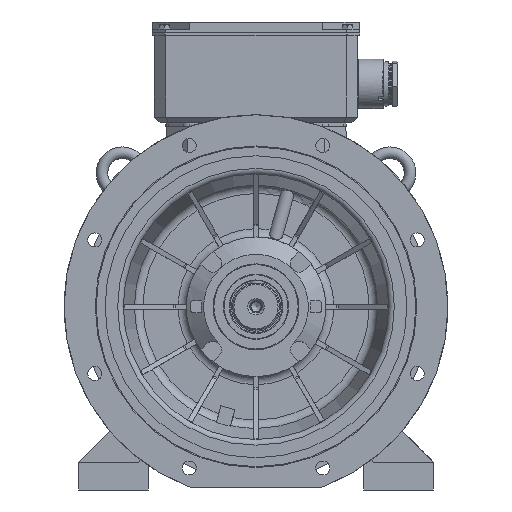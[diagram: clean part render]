
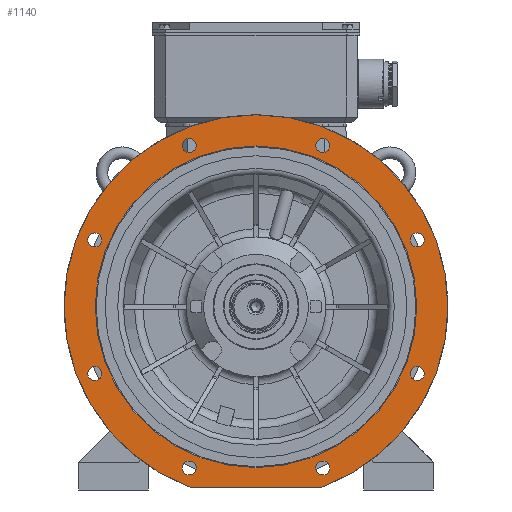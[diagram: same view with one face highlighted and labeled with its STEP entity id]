
A CAD part, front view. The second image highlights one B-rep face of the part: STEP entity #1140.
In plain terms, the highlighted planar face has unit normal (0, -1, 0).
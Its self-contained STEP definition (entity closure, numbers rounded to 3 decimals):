
#1140 = ADVANCED_FACE( '', ( #3533, #3534, #3535, #3536, #3537, #3538, #3539, #3540, #3541, #3542 ), #3543, .F. );
#3533 = FACE_BOUND( '', #10272, .T. );
#3534 = FACE_BOUND( '', #10273, .T. );
#3535 = FACE_BOUND( '', #10274, .T. );
#3536 = FACE_BOUND( '', #10275, .T. );
#3537 = FACE_BOUND( '', #10276, .T. );
#3538 = FACE_BOUND( '', #10277, .T. );
#3539 = FACE_BOUND( '', #10278, .T. );
#3540 = FACE_BOUND( '', #10279, .T. );
#3541 = FACE_BOUND( '', #10280, .T. );
#3542 = FACE_OUTER_BOUND( '', #10281, .T. );
#3543 = PLANE( '', #10282 );
#10272 = EDGE_LOOP( '', ( #19076 ) );
#10273 = EDGE_LOOP( '', ( #19077 ) );
#10274 = EDGE_LOOP( '', ( #19078 ) );
#10275 = EDGE_LOOP( '', ( #19079 ) );
#10276 = EDGE_LOOP( '', ( #19080 ) );
#10277 = EDGE_LOOP( '', ( #19081 ) );
#10278 = EDGE_LOOP( '', ( #19082 ) );
#10279 = EDGE_LOOP( '', ( #19083 ) );
#10280 = EDGE_LOOP( '', ( #19084 ) );
#10281 = EDGE_LOOP( '', ( #19085, #19086, #19087, #19088 ) );
#10282 = AXIS2_PLACEMENT_3D( '', #19089, #19090, #19091 );
#19076 = ORIENTED_EDGE( '', *, *, #23639, .F. );
#19077 = ORIENTED_EDGE( '', *, *, #23640, .F. );
#19078 = ORIENTED_EDGE( '', *, *, #23641, .F. );
#19079 = ORIENTED_EDGE( '', *, *, #23642, .F. );
#19080 = ORIENTED_EDGE( '', *, *, #23643, .F. );
#19081 = ORIENTED_EDGE( '', *, *, #23644, .F. );
#19082 = ORIENTED_EDGE( '', *, *, #23645, .F. );
#19083 = ORIENTED_EDGE( '', *, *, #23646, .F. );
#19084 = ORIENTED_EDGE( '', *, *, #23638, .F. );
#19085 = ORIENTED_EDGE( '', *, *, #21611, .T. );
#19086 = ORIENTED_EDGE( '', *, *, #23647, .F. );
#19087 = ORIENTED_EDGE( '', *, *, #21608, .T. );
#19088 = ORIENTED_EDGE( '', *, *, #21614, .F. );
#19089 = CARTESIAN_POINT( '', ( 0., -103.997, 276.4 ) );
#19090 = DIRECTION( '', ( 0., 1., 0. ) );
#19091 = DIRECTION( '', ( 0., 0., 1. ) );
#21608 = EDGE_CURVE( '', #25660, #25661, #25662, .F. );
#21611 = EDGE_CURVE( '', #25665, #25666, #25667, .F. );
#21614 = EDGE_CURVE( '', #25665, #25661, #25670, .T. );
#23638 = EDGE_CURVE( '', #29046, #29046, #29047, .T. );
#23639 = EDGE_CURVE( '', #29048, #29048, #29049, .T. );
#23640 = EDGE_CURVE( '', #29050, #29050, #29051, .T. );
#23641 = EDGE_CURVE( '', #29052, #29052, #29053, .T. );
#23642 = EDGE_CURVE( '', #29054, #29054, #29055, .T. );
#23643 = EDGE_CURVE( '', #29056, #29056, #29057, .T. );
#23644 = EDGE_CURVE( '', #29058, #29058, #29059, .T. );
#23645 = EDGE_CURVE( '', #29060, #29060, #29061, .T. );
#23646 = EDGE_CURVE( '', #29062, #29062, #29063, .T. );
#23647 = EDGE_CURVE( '', #25660, #25666, #29064, .T. );
#25660 = VERTEX_POINT( '', #33444 );
#25661 = VERTEX_POINT( '', #33445 );
#25662 = CIRCLE( '', #33446, 3. );
#25665 = VERTEX_POINT( '', #33451 );
#25666 = VERTEX_POINT( '', #33452 );
#25667 = CIRCLE( '', #33453, 3. );
#25670 = CIRCLE( '', #33458, 330. );
#29046 = VERTEX_POINT( '', #41403 );
#29047 = CIRCLE( '', #41404, 276.4 );
#29048 = VERTEX_POINT( '', #41405 );
#29049 = CIRCLE( '', #41406, 12. );
#29050 = VERTEX_POINT( '', #41407 );
#29051 = CIRCLE( '', #41408, 12. );
#29052 = VERTEX_POINT( '', #41409 );
#29053 = CIRCLE( '', #41410, 12. );
#29054 = VERTEX_POINT( '', #41411 );
#29055 = CIRCLE( '', #41412, 12. );
#29056 = VERTEX_POINT( '', #41413 );
#29057 = CIRCLE( '', #41414, 12. );
#29058 = VERTEX_POINT( '', #41415 );
#29059 = CIRCLE( '', #41416, 12. );
#29060 = VERTEX_POINT( '', #41417 );
#29061 = CIRCLE( '', #41418, 12. );
#29062 = VERTEX_POINT( '', #41419 );
#29063 = CIRCLE( '', #41420, 12. );
#29064 = LINE( '', #41421, #41422 );
#33444 = CARTESIAN_POINT( '', ( 112.606, -103.997, -310. ) );
#33445 = CARTESIAN_POINT( '', ( 113.639, -103.997, -309.817 ) );
#33446 = AXIS2_PLACEMENT_3D( '', #45125, #45126, #45127 );
#33451 = CARTESIAN_POINT( '', ( -113.639, -103.997, -309.817 ) );
#33452 = CARTESIAN_POINT( '', ( -112.606, -103.997, -310. ) );
#33453 = AXIS2_PLACEMENT_3D( '', #45130, #45131, #45132 );
#33458 = AXIS2_PLACEMENT_3D( '', #45135, #45136, #45137 );
#41403 = CARTESIAN_POINT( '', ( 0., -103.997, -276.4 ) );
#41404 = AXIS2_PLACEMENT_3D( '', #48022, #48023, #48024 );
#41405 = CARTESIAN_POINT( '', ( -265.164, -103.997, 114.805 ) );
#41406 = AXIS2_PLACEMENT_3D( '', #48025, #48026, #48027 );
#41407 = CARTESIAN_POINT( '', ( -265.164, -103.997, -114.805 ) );
#41408 = AXIS2_PLACEMENT_3D( '', #48028, #48029, #48030 );
#41409 = CARTESIAN_POINT( '', ( -102.805, -103.997, -277.164 ) );
#41410 = AXIS2_PLACEMENT_3D( '', #48031, #48032, #48033 );
#41411 = CARTESIAN_POINT( '', ( 126.805, -103.997, -277.164 ) );
#41412 = AXIS2_PLACEMENT_3D( '', #48034, #48035, #48036 );
#41413 = CARTESIAN_POINT( '', ( 289.164, -103.997, -114.805 ) );
#41414 = AXIS2_PLACEMENT_3D( '', #48037, #48038, #48039 );
#41415 = CARTESIAN_POINT( '', ( 289.164, -103.997, 114.805 ) );
#41416 = AXIS2_PLACEMENT_3D( '', #48040, #48041, #48042 );
#41417 = CARTESIAN_POINT( '', ( 126.805, -103.997, 277.164 ) );
#41418 = AXIS2_PLACEMENT_3D( '', #48043, #48044, #48045 );
#41419 = CARTESIAN_POINT( '', ( -102.805, -103.997, 277.164 ) );
#41420 = AXIS2_PLACEMENT_3D( '', #48046, #48047, #48048 );
#41421 = CARTESIAN_POINT( '', ( -113.137, -103.997, -310. ) );
#41422 = VECTOR( '', #48049, 1000. );
#45125 = CARTESIAN_POINT( '', ( 112.606, -103.997, -307. ) );
#45126 = DIRECTION( '', ( 0., 1., 0. ) );
#45127 = DIRECTION( '', ( 0., 0., 1. ) );
#45130 = CARTESIAN_POINT( '', ( -112.606, -103.997, -307. ) );
#45131 = DIRECTION( '', ( 0., 1., 0. ) );
#45132 = DIRECTION( '', ( 0., 0., 1. ) );
#45135 = CARTESIAN_POINT( '', ( 0., -103.997, 0. ) );
#45136 = DIRECTION( '', ( 0., 1., 0. ) );
#45137 = DIRECTION( '', ( 0., 0., 1. ) );
#48022 = CARTESIAN_POINT( '', ( 0., -103.997, 0. ) );
#48023 = DIRECTION( '', ( 0., -1., 0. ) );
#48024 = DIRECTION( '', ( 0., 0., -1. ) );
#48025 = CARTESIAN_POINT( '', ( -277.164, -103.997, 114.805 ) );
#48026 = DIRECTION( '', ( 0., -1., 0. ) );
#48027 = DIRECTION( '', ( 1., 0., 0. ) );
#48028 = CARTESIAN_POINT( '', ( -277.164, -103.997, -114.805 ) );
#48029 = DIRECTION( '', ( 0., -1., 0. ) );
#48030 = DIRECTION( '', ( 1., 0., 0. ) );
#48031 = CARTESIAN_POINT( '', ( -114.805, -103.997, -277.164 ) );
#48032 = DIRECTION( '', ( 0., -1., 0. ) );
#48033 = DIRECTION( '', ( 1., 0., 0. ) );
#48034 = CARTESIAN_POINT( '', ( 114.805, -103.997, -277.164 ) );
#48035 = DIRECTION( '', ( 0., -1., 0. ) );
#48036 = DIRECTION( '', ( 1., 0., 0. ) );
#48037 = CARTESIAN_POINT( '', ( 277.164, -103.997, -114.805 ) );
#48038 = DIRECTION( '', ( 0., -1., 0. ) );
#48039 = DIRECTION( '', ( 1., 0., 0. ) );
#48040 = CARTESIAN_POINT( '', ( 277.164, -103.997, 114.805 ) );
#48041 = DIRECTION( '', ( 0., -1., 0. ) );
#48042 = DIRECTION( '', ( 1., 0., 0. ) );
#48043 = CARTESIAN_POINT( '', ( 114.805, -103.997, 277.164 ) );
#48044 = DIRECTION( '', ( 0., -1., 0. ) );
#48045 = DIRECTION( '', ( 1., 0., 0. ) );
#48046 = CARTESIAN_POINT( '', ( -114.805, -103.997, 277.164 ) );
#48047 = DIRECTION( '', ( 0., -1., 0. ) );
#48048 = DIRECTION( '', ( 1., 0., 0. ) );
#48049 = DIRECTION( '', ( -1., 0., 0. ) );
